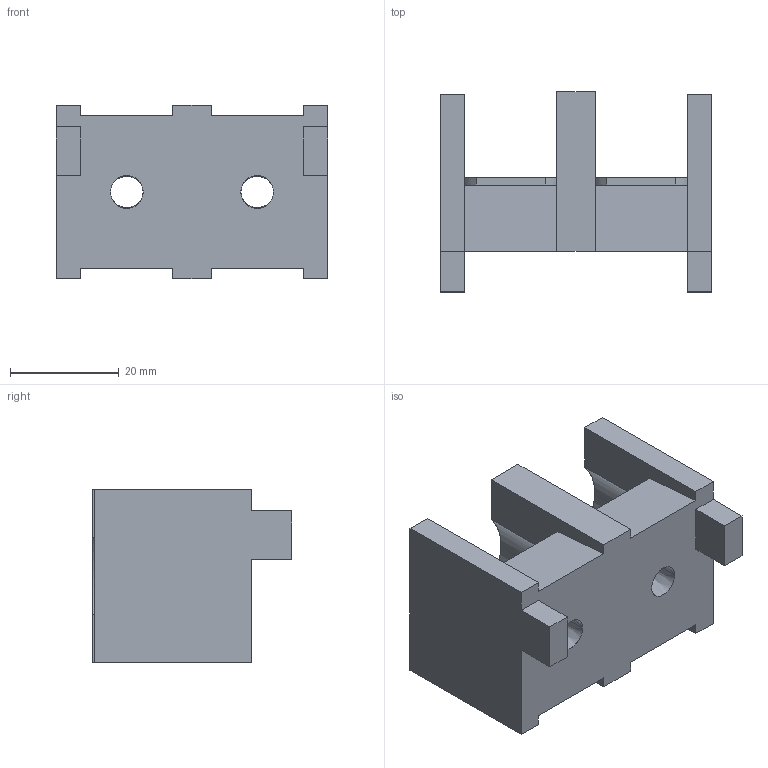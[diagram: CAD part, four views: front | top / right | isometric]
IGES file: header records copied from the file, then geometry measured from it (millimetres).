
Start section:  PTC IGES file: j5d-te2.igs
Global section: file name: j5d-te2.igs; native system: Creo Parametric by PTC Inc.; preprocessor: 2020184; author: VX25986; organization: Unknown; date: 20210323.200204; units: millimetre
Bounding box: 50 x 36.8 x 32 mm (x, y, z)
Surface area: 9979.9 mm2 (no closed solid volume)
Topology: 0 solids, 0 shells, 60 faces, 336 edges, 336 vertices
Faces by surface type: bspline 60
